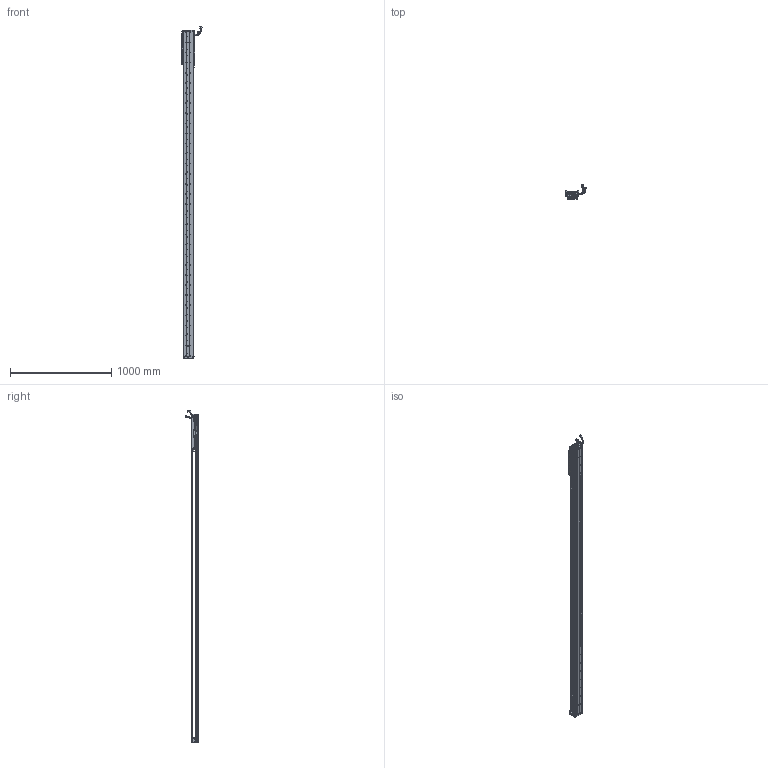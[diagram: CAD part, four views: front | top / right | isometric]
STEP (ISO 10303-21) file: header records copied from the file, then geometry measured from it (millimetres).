
FILE_DESCRIPTION (( 'STEP AP203' ), '1' );
FILE_NAME ('Z4-RY100D-1-L500-B-K.SLDASM_2850.step', '2021-05-17T03:05:12', ( '盈信电脑' ), ( '东莞市道滘镇水果街19号' ), 'SwSTEP 2.0', 'SolidWorks 2016', '' );
FILE_SCHEMA (( 'CONFIG_CONTROL_DESIGN' ));
Length unit declared in the file: millimetre
Products named in the file (36): SCREW-M1.7; Z4-RY100-L500詩湍90mm遵_2850; SCALE-Part-1; 140雄赽晤鎢ん堤盄; 080黍杅芛假蚾釱21遴; LABEL-Part-1; SHIELDPLATE; SCREW-M1.7-1; 覜茼ん672; SCREW-M1.6-1; Z4-RY100D-1-L500-B-K.SLDASM_2850; HOLDER0; HARNESS-Part-1; HARNESS-Part-2; Z4-RY100D-500-倰第菁釱_2850; SCALE; Z-100詩湍傷裔啣; 140蚥薯蝶輸; COVER-Part-1; LABEL; Z4-RY100铝滑块（21款）; 榋妏寠巭燃_暯_M2_2; SCREW-M1.6-2; SEAL-Part-1; PBU_SHEET; PSLH080_PSLF2; Z-RY100D詩湍奻揤裔; Z-RY100D覜茼んえ; SCREW-M1.6; 100-Z-臏賑輸盄裔(21遴); COVER; SCREW-M1.6-3; Z-RY100D詩湍狟揤裔; HARNESS; SEAL; SCALE-Part-2
Assembly tree (43 placements, depth 4):
  Z4-RY100D-1-L500-B-K.SLDASM_2850
    Z4-RY100D-500-倰第菁釱_2850
    Z4-RY100铝滑块（21款）
    PSLH080_PSLF2
      SCALE
        SCALE-Part-1
        SCALE-Part-2
      HARNESS
        HARNESS-Part-1
        HARNESS-Part-2
      LABEL
        LABEL-Part-1
      COVER
        COVER-Part-1
      SEAL
        SEAL-Part-1
      榋妏寠巭燃_暯_M2_2
      SHIELDPLATE
      SCREW-M1.7
      SCREW-M1.7-1
      PBU_SHEET
      SCREW-M1.6
      SCREW-M1.6-1
      SCREW-M1.6-2
      SCREW-M1.6-3
      HOLDER0
    080黍杅芛假蚾釱21遴
    Z-100詩湍傷裔啣  x2
    140蚥薯蝶輸  x2
    覜茼ん672  x3
    Z-RY100D覜茼んえ  x3
    100-Z-臏賑輸盄裔(21遴)
    140雄赽晤鎢ん堤盄
    Z4-RY100-L500詩湍90mm遵_2850
    Z-RY100D詩湍狟揤裔  x2
    Z-RY100D詩湍奻揤裔  x2
Bounding box: 205.79 x 136.11 x 3285.43 mm (x, y, z)
Volume: 5982282.6 mm3; surface area: 2350875.5 mm2
Topology: 38 solids, 38 shells, 3186 faces, 8797 edges, 5632 vertices
Faces by surface type: cylinder 1626, plane 1212, cone 226, torus 69, bspline 53
Entity records: 94061 total; most frequent: CARTESIAN_POINT 19654, DIRECTION 15257, ORIENTED_EDGE 14474, EDGE_CURVE 7237, AXIS2_PLACEMENT_3D 5775, VERTEX_POINT 4700, VECTOR 3707, LINE 3707
